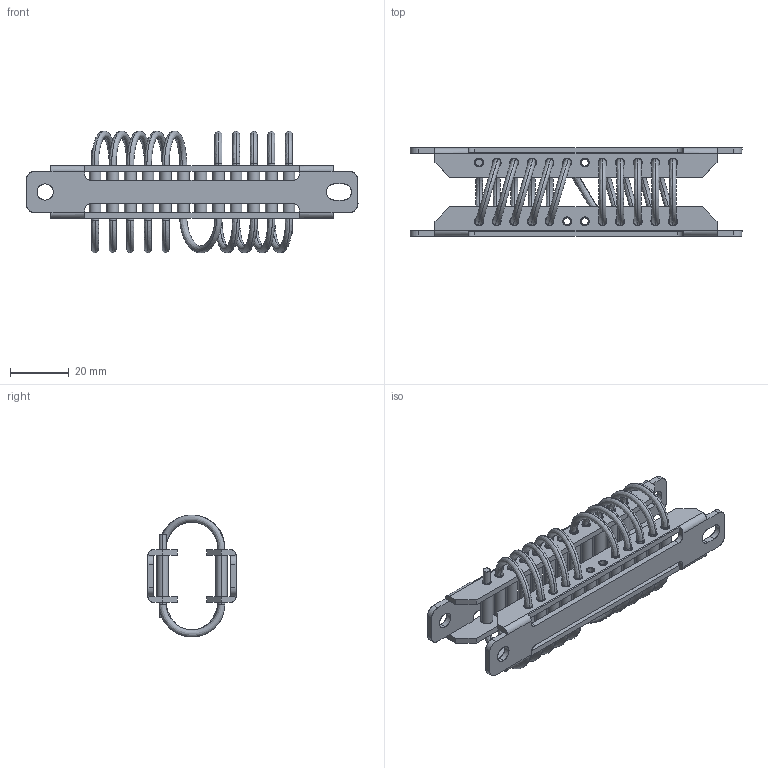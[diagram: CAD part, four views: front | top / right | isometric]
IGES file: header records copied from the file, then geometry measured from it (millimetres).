
Start section: SolidWorks IGES file using analytic representation for surfaces
Bounding box: 113 x 30 x 41.49 mm (x, y, z)
Surface area: 25257 mm2 (no closed solid volume)
Topology: 0 solids, 0 shells, 280 faces, 8008 edges, 8008 vertices
Faces by surface type: bspline 156, revolution 124
